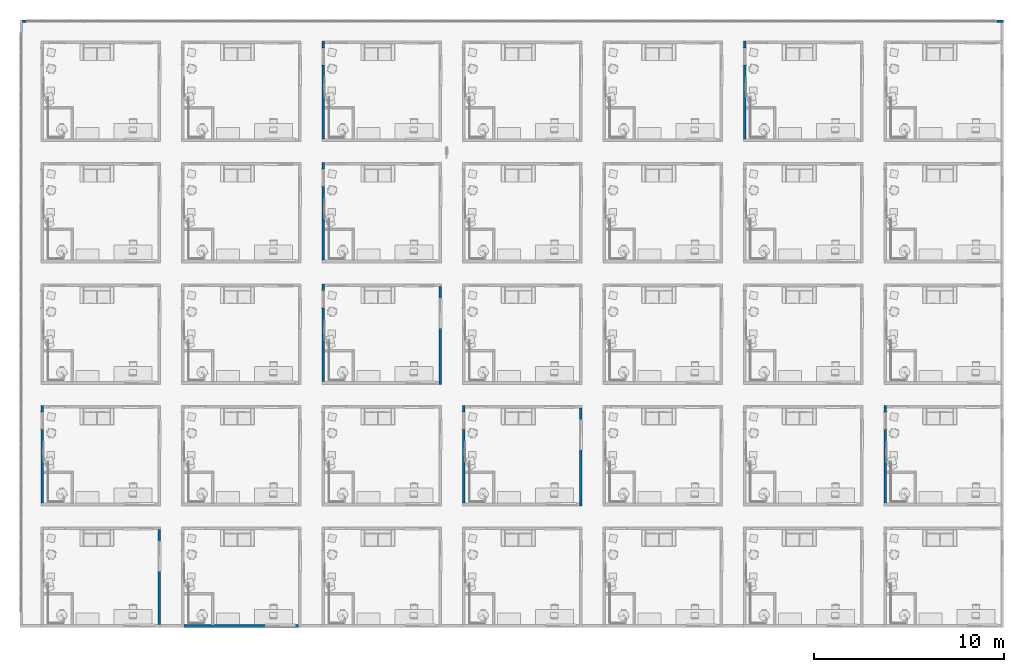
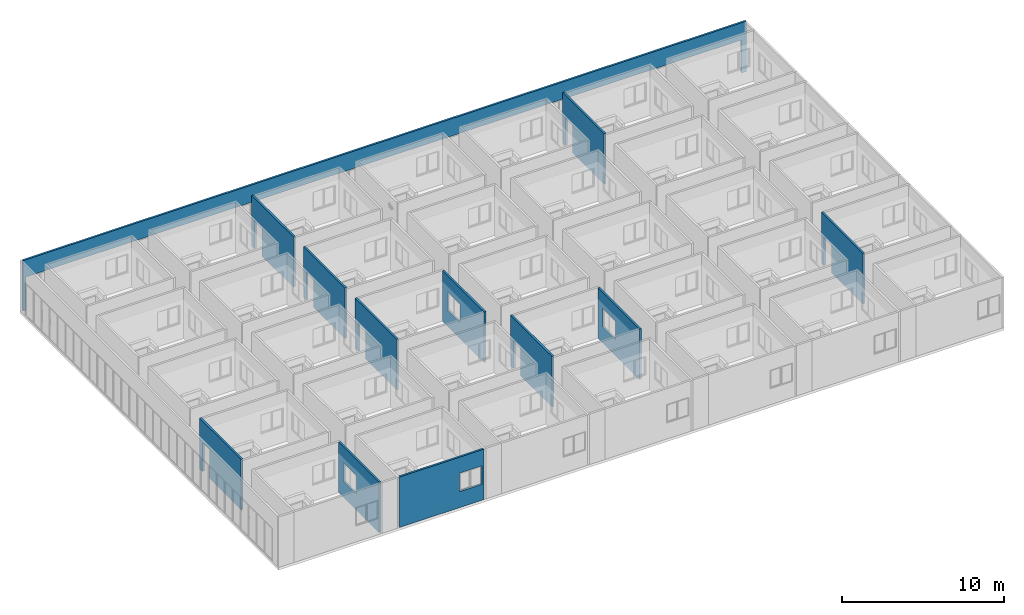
# One storey, part 10 of 69: 12 walls, 12 openings.
"""IFC4 building model written with IfcOpenShell, lengths in centimetres."""

from ifc_helpers import new_model, entity, si_unit, converted_unit, derived_unit, direction, frame, origin, place, context, subcontext, project, spatial, indexed_curve, outline, extrude, polygons, material, type_object, element, save


model = new_model("IFC4")

# Units and contexts
model_context = context("Model", 3, precision=0.001, world=origin(), true_north=direction((6.123233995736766e-17, 1.0)))
body_context = subcontext(model_context, "Body", "Model", "MODEL_VIEW")
ifc_project = project(units=[si_unit("LENGTHUNIT", "METRE", prefix="CENTI"), si_unit("AREAUNIT", "SQUARE_METRE"), si_unit("VOLUMEUNIT", "CUBIC_METRE"), derived_unit("THERMALTRANSMITTANCEUNIT", [(si_unit("MASSUNIT", "GRAM", prefix="KILO"), 1), (si_unit("THERMODYNAMICTEMPERATUREUNIT", "KELVIN"), -1), (si_unit("TIMEUNIT", "SECOND"), -3)]), converted_unit("PLANEANGLEUNIT", "DEGREE", entity("IfcPlaneAngleMeasure", 0.017453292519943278), si_unit("PLANEANGLEUNIT", "RADIAN"), dimensions=[0, 0, 0, 0, 0, 0, 0]), derived_unit("MASSDENSITYUNIT", [(si_unit("MASSUNIT", "GRAM", prefix="KILO"), 1), (si_unit("LENGTHUNIT", "METRE"), -3)]), derived_unit("VAPORPERMEABILITYUNIT", [(si_unit("LENGTHUNIT", "METRE"), -1), (si_unit("TIMEUNIT", "SECOND"), 1)]), derived_unit("USERDEFINED", [(si_unit("MASSUNIT", "GRAM", prefix="KILO"), 1), (si_unit("TIMEUNIT", "SECOND"), -3), (si_unit("LENGTHUNIT", "METRE"), 3), (si_unit("ELECTRICCURRENTUNIT", "AMPERE"), -2)]), derived_unit("SPECIFICHEATCAPACITYUNIT", [(si_unit("THERMODYNAMICTEMPERATUREUNIT", "KELVIN"), -1), (si_unit("LENGTHUNIT", "METRE"), 2), (si_unit("TIMEUNIT", "SECOND"), -2)]), derived_unit("THERMALCONDUCTANCEUNIT", [(si_unit("MASSUNIT", "GRAM", prefix="KILO"), 1), (si_unit("THERMODYNAMICTEMPERATUREUNIT", "KELVIN"), -1), (si_unit("TIMEUNIT", "SECOND"), -3), (si_unit("LENGTHUNIT", "METRE"), 1)]), si_unit("PRESSUREUNIT", "PASCAL"), derived_unit("MODULUSOFELASTICITYUNIT", [(si_unit("MASSUNIT", "GRAM", prefix="KILO"), 1), (si_unit("LENGTHUNIT", "METRE"), -1), (si_unit("TIMEUNIT", "SECOND"), -2)]), derived_unit("THERMALEXPANSIONCOEFFICIENTUNIT", [(si_unit("THERMODYNAMICTEMPERATUREUNIT", "KELVIN"), -1)])], contexts=[model_context])

# Site, building, storey
site_placement = place(None, origin())
site = spatial("IfcSite", under=ifc_project, at=site_placement, Name="Default", CompositionType="ELEMENT")
building_placement = place(site_placement, origin())
building = spatial("IfcBuilding", under=site, at=building_placement, Name="IDS Escape Game Building", CompositionType="ELEMENT")
storey_placement = place(building_placement, origin())
storey = spatial("IfcBuildingStorey", under=building, at=storey_placement, Name="00_Ground Floor", CompositionType="ELEMENT", Elevation=0.0)

# Wall, opening
ifc_material = material(Name="ARC_FME.g2_Fg2 Masonry_00_gen_BERSnl", Category="g - klei")
wall_type = type_object("IfcWallType", Name="Basic Wall:ARC_22.10_WA_LB_SB14_gen_BERSnl", PredefinedType="STANDARD")
wall_1_placement = place(storey_placement, frame((614.0, 13.0, 0.0), z_axis=(0.0, 0.0, 1.0), x_axis=(0.0, 1.0, 0.0)))
wall_1 = element("IfcWall", 1, at=wall_1_placement, inside=storey, type_object=wall_type, material=ifc_material, Name="Basic Wall:ARC_22.10_WA_LB_SB14_gen_BERSnl", ObjectType="Basic Wall:ARC_22.10_WA_LB_SB14_gen_BERSnl", PredefinedType="NOTDEFINED", context=body_context, shape_type="Tessellation", body=[
    polygons([(0.0, -6.9999999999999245, 0.0), (499.9999999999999, -6.9999999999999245, 0.0), (499.9999999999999, -6.9999999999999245, 380.0), (3.383959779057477e-14, -6.9999999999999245, 380.0), (439.99999999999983, -6.999999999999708, 260.00000000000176), (439.9999999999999, -6.9999999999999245, 120.0), (280.0, -7.000000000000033, 120.00000000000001), (280.00000000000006, -6.999999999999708, 260.00000000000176), (439.9999999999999, 7.000000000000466, 120.0), (439.9999999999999, 7.000000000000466, 260.0000000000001), (280.0, 7.000000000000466, 260.0000000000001), (280.0, 7.000000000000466, 120.00000000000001), (3.383959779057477e-14, 7.000000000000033, 0.0), (1.184385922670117e-14, 7.000000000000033, 380.0), (499.9999999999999, 7.000000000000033, 380.0), (499.9999999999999, 7.000000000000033, 0.0)], [[[1, 2, 3, 4], [5, 6, 7, 8]], [[13, 14, 15, 16], [9, 10, 11, 12]], [[2, 1, 13, 16]], [[4, 3, 15, 14]], [[10, 9, 6, 5]], [[7, 12, 11, 8]], [[10, 5, 8, 11]], [[12, 7, 6, 9]], [[1, 4, 14, 13]], [[3, 2, 16, 15]]], closed=True),
])
opening_1_placement = place(wall_1_placement, frame((-13.0, 614.0, 120.0), z_axis=(0.0, 0.0, 1.0), x_axis=(0.0, -1.0, 0.0)))
element("IfcOpeningElement", 2, at=opening_1_placement, cuts=wall_1, Name="Basic Wall:ARC_22.10_WA_LB_SB14_gen_BERSnl", PredefinedType="OPENING", context=body_context, shape_type="Tessellation", body=[
    polygons([(607.0, 453.0000000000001, 0.0), (607.0, 453.0000000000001, -1.0), (602.0, 453.0000000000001, -1.0), (602.0, 453.0000000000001, 0.0), (606.9999999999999, 293.0000000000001, 0.0), (601.9999999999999, 293.0000000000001, 0.0), (601.9999999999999, 293.0000000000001, -1.0), (606.9999999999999, 293.0000000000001, -1.0), (606.9999999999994, 448.0000000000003, 0.0), (606.9999999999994, 298.00000000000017, 0.0), (601.9999999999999, 298.00000000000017, 0.0), (601.9999999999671, 298.0000000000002, 134.9999999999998), (601.9999999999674, 448.0000000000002, 134.9999999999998), (601.9999999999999, 448.0000000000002, 0.0), (626.0368251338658, 453.00000000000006, 0.0), (606.9999999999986, 453.00000000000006, 0.0), (606.9999999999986, 453.0000000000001, 140.00000000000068), (626.0368251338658, 453.0000000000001, 140.00000000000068), (626.0368251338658, 293.00000000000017, 140.0000000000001), (606.9999999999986, 293.00000000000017, 140.0000000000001), (606.9999999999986, 293.00000000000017, 0.0), (626.0368251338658, 293.00000000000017, 0.0), (606.9999999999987, 448.0000000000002, 134.9999999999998), (606.9999999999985, 298.0000000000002, 134.9999999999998)], [[[1, 2, 3, 4]], [[5, 6, 7, 8]], [[1, 9, 10, 5, 8, 2]], [[2, 8, 7, 3]], [[3, 7, 6, 11, 12, 13, 14, 4]], [[4, 14, 9, 1]], [[15, 16, 17, 18]], [[19, 20, 21, 22]], [[18, 17, 20, 19]], [[18, 19, 22, 15]], [[17, 16, 9, 23, 24, 10, 21, 20]], [[22, 21, 10, 9, 16, 15]], [[11, 10, 24, 12]], [[13, 23, 9, 14]], [[12, 24, 23, 13]], [[5, 10, 11, 6]]], closed=True),
])

wall_2_placement = place(storey_placement, frame((745.0, 6.0, 0.0)))
wall_2 = element("IfcWall", 3, at=wall_2_placement, inside=storey, type_object=wall_type, material=ifc_material, Name="Basic Wall:ARC_22.10_WA_LB_SB14_gen_BERSnl", ObjectType="Basic Wall:ARC_22.10_WA_LB_SB14_gen_BERSnl", PredefinedType="NOTDEFINED", context=body_context, shape_type="Tessellation", body=[
    polygons([(0.0, -7.000000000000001, 0.0), (599.9999999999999, -7.000000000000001, 0.0), (599.9999999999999, -7.000000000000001, 380.0), (0.0, -7.000000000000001, 380.0), (424.99999999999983, -6.999999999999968, 120.0), (424.99999999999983, -6.999999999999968, 260.0000000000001), (584.9999999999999, -6.999999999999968, 260.0000000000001), (584.9999999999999, -6.999999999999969, 120.00000000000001), (425.00000000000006, 7.000000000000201, 260.00000000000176), (424.99999999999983, 7.000000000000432, 120.0), (584.9999999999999, 7.000000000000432, 120.00000000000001), (584.9999999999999, 7.000000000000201, 260.00000000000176), (0.0, 6.999999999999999, 0.0), (0.0, 6.999999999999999, 380.0), (599.9999999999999, 6.999999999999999, 380.0), (599.9999999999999, 6.999999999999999, 0.0), (155.00000000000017, 6.999999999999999, 0.0), (145.00000000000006, 6.999999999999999, 0.0)], [[[1, 2, 3, 4], [5, 6, 7, 8]], [[13, 14, 15, 16, 17, 18], [9, 10, 11, 12]], [[2, 1, 13, 18, 17, 16]], [[4, 3, 15, 14]], [[8, 11, 10, 5]], [[6, 5, 10, 9]], [[11, 8, 7, 12]], [[6, 9, 12, 7]], [[1, 4, 14, 13]], [[3, 2, 16, 15]]], closed=True),
])
opening_2_placement = place(wall_2_placement, frame((-745.0, -6.0, 120.0)))
element("IfcOpeningElement", 4, at=opening_2_placement, cuts=wall_2, Name="Basic Wall:ARC_22.10_WA_LB_SB14_gen_BERSnl", PredefinedType="OPENING", context=body_context, shape_type="Tessellation", body=[
    polygons([(1170.0, -1.000000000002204, 0.0), (1170.0, -1.000000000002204, -1.0), (1170.0, -6.000000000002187, -1.0), (1170.0, -6.000000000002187, 0.0), (1330.0, -1.0000000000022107, 0.0), (1330.0, -6.000000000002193, 0.0), (1330.0, -6.000000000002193, -1.0), (1330.0, -1.0000000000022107, -1.0), (1175.0, -1.0000000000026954, 0.0), (1324.9999999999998, -1.0000000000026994, 0.0), (1324.9999999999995, -6.000000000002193, 0.0), (1324.9999999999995, -6.000000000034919, 134.9999999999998), (1175.0, -6.000000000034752, 134.9999999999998), (1175.0, -6.000000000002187, 0.0), (1170.0, 18.03682513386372, 0.0), (1170.0, -1.0000000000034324, 0.0), (1170.0, -1.0000000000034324, 140.00000000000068), (1170.0, 18.03682513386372, 140.00000000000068), (1330.0, 18.03682513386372, 140.0000000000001), (1330.0, -1.0000000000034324, 140.0000000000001), (1330.0, -1.000000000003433, 0.0), (1330.0, 18.03682513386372, 0.0), (1175.0, -1.000000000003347, 134.9999999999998), (1324.9999999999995, -1.0000000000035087, 134.9999999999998)], [[[1, 2, 3, 4]], [[5, 6, 7, 8]], [[1, 9, 10, 5, 8, 2]], [[2, 8, 7, 3]], [[3, 7, 6, 11, 12, 13, 14, 4]], [[4, 14, 9, 1]], [[15, 16, 17, 18]], [[19, 20, 21, 22]], [[18, 17, 20, 19]], [[18, 19, 22, 15]], [[17, 16, 9, 23, 24, 10, 21, 20]], [[22, 21, 10, 9, 16, 15]], [[11, 10, 24, 12]], [[13, 23, 9, 14]], [[12, 24, 23, 13]], [[5, 10, 11, 6]]], closed=True),
])

wall_3_placement = place(storey_placement, frame((0.0, 1165.0, 0.0), z_axis=(0.0, 0.0, 1.0), x_axis=(0.0, -1.0, 0.0)))
wall_3 = element("IfcWall", 5, at=wall_3_placement, inside=storey, type_object=wall_type, material=ifc_material, Name="Basic Wall:ARC_22.10_WA_LB_SB14_gen_BERSnl", ObjectType="Basic Wall:ARC_22.10_WA_LB_SB14_gen_BERSnl", PredefinedType="NOTDEFINED", context=body_context, shape_type="Tessellation", body=[
    polygons([(514.0000000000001, -7.0, 380.0), (0.0, -7.0, 380.0), (0.0, -7.0, 0.0), (35.99999999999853, -7.0, 0.0), (35.99999999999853, -7.000000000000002, 215.00000000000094), (125.99999999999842, -7.000000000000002, 215.00000000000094), (125.99999999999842, -7.0, 0.0), (514.0000000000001, -7.0, 0.0), (0.0, 7.0, 380.0), (14.000000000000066, 7.0, 380.0), (514.0000000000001, 7.0, 380.0), (514.0000000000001, 7.0, 0.0), (355.99999999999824, 7.0, 0.0), (345.99999999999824, 7.0, 0.0), (125.99999999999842, 7.0, 0.0), (125.99999999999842, 6.9999999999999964, 215.00000000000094), (35.99999999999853, 7.000000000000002, 215.00000000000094), (35.99999999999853, 7.0, 0.0), (14.000000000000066, 7.0, 0.0), (0.0, 7.0, 0.0)], [[[1, 2, 3, 4, 5, 6, 7, 8]], [[9, 10, 11, 12, 13, 14, 15, 16, 17, 18, 19, 20]], [[3, 20, 19, 18, 4]], [[2, 1, 11, 10, 9]], [[17, 5, 4, 18]], [[6, 16, 15, 7]], [[5, 17, 16, 6]], [[3, 2, 9, 20]], [[1, 8, 12, 11]], [[12, 8, 7, 15, 14, 13]]], closed=True),
])
opening_3_placement = place(wall_3_placement, frame((1165.0, 0.0, 0.0), z_axis=(0.0, 0.0, 1.0), x_axis=(0.0, 1.0, 0.0)))
element("IfcOpeningElement", 6, at=opening_3_placement, cuts=wall_3, Name="Basic Wall:ARC_22.10_WA_LB_SB14_gen_BERSnl", PredefinedType="OPENING", context=body_context, shape_type="SweptSolid", body=[
    extrude(outline(indexed_curve([(-137.49999999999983, -44.99999999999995), (137.49999999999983, -44.99999999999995), (137.49999999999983, 44.99999999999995), (-137.49999999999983, 44.99999999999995), (-137.49999999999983, -44.99999999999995)], self_intersect=False)), frame((-90.0, 1084.0, 77.50000000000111), z_axis=(1.0, 0.0, 0.0), x_axis=(0.0, 0.0, 1.0)), (0.0, 0.0, 1.0), 166.0),
])

wall_4_placement = place(storey_placement, frame((2214.0, 1165.0, 0.0), z_axis=(0.0, 0.0, 1.0), x_axis=(0.0, -1.0, 0.0)))
wall_4 = element("IfcWall", 7, at=wall_4_placement, inside=storey, type_object=wall_type, material=ifc_material, Name="Basic Wall:ARC_22.10_WA_LB_SB14_gen_BERSnl", ObjectType="Basic Wall:ARC_22.10_WA_LB_SB14_gen_BERSnl", PredefinedType="NOTDEFINED", context=body_context, shape_type="Tessellation", body=[
    polygons([(514.0000000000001, -6.999999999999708, 380.0), (0.0, -6.999999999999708, 380.0), (0.0, -6.999999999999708, 0.0), (35.99999999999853, -6.999999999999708, 0.0), (35.99999999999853, -6.999999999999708, 215.00000000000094), (125.99999999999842, -6.999999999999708, 215.00000000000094), (125.99999999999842, -6.999999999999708, 0.0), (514.0000000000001, -6.999999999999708, 0.0), (0.0, 7.000000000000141, 380.0), (14.000000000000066, 7.000000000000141, 380.0), (514.0000000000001, 7.000000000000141, 380.0), (514.0000000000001, 7.000000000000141, 0.0), (355.99999999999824, 7.000000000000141, 0.0), (345.99999999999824, 7.000000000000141, 0.0), (125.99999999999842, 7.000000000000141, 0.0), (125.99999999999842, 7.000000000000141, 215.00000000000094), (35.99999999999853, 7.000000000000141, 215.00000000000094), (35.99999999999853, 7.000000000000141, 0.0), (14.000000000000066, 7.000000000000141, 0.0), (0.0, 7.000000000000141, 0.0)], [[[1, 2, 3, 4, 5, 6, 7, 8]], [[9, 10, 11, 12, 13, 14, 15, 16, 17, 18, 19, 20]], [[3, 20, 19, 18, 4]], [[2, 1, 11, 10, 9]], [[17, 5, 4, 18]], [[6, 16, 15, 7]], [[5, 17, 16, 6]], [[3, 2, 9, 20]], [[1, 8, 12, 11]], [[12, 8, 7, 15, 14, 13]]], closed=True),
])
opening_4_placement = place(wall_4_placement, frame((1165.0, -2214.0, 0.0), z_axis=(0.0, 0.0, 1.0), x_axis=(0.0, 1.0, 0.0)))
element("IfcOpeningElement", 8, at=opening_4_placement, cuts=wall_4, Name="Basic Wall:ARC_22.10_WA_LB_SB14_gen_BERSnl", PredefinedType="OPENING", context=body_context, shape_type="SweptSolid", body=[
    extrude(outline(indexed_curve([(-137.49999999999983, -44.99999999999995), (137.49999999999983, -44.99999999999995), (137.49999999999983, 44.99999999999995), (-137.49999999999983, 44.99999999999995), (-137.49999999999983, -44.99999999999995)], self_intersect=False)), frame((2124.0, 1084.0, 77.50000000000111), z_axis=(1.0, 0.0, 0.0), x_axis=(0.0, 0.0, 1.0)), (0.0, 0.0, 1.0), 166.00000000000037),
])

wall_5_placement = place(storey_placement, frame((2828.0, 637.0, 0.0), z_axis=(0.0, 0.0, 1.0), x_axis=(0.0, 1.0, 0.0)))
wall_5 = element("IfcWall", 9, at=wall_5_placement, inside=storey, type_object=wall_type, material=ifc_material, Name="Basic Wall:ARC_22.10_WA_LB_SB14_gen_BERSnl", ObjectType="Basic Wall:ARC_22.10_WA_LB_SB14_gen_BERSnl", PredefinedType="NOTDEFINED", context=body_context, shape_type="Tessellation", body=[
    polygons([(0.0, -6.999999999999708, 0.0), (514.0, -6.999999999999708, 0.0), (514.0, -6.999999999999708, 380.0), (0.0, -6.999999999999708, 380.0), (454.00000000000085, -6.999999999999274, 260.00000000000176), (454.0000000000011, -6.999999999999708, 120.0), (294.00000000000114, -6.999999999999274, 120.00000000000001), (294.00000000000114, -6.999999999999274, 260.00000000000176), (454.0000000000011, 7.000000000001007, 120.0), (454.0000000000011, 7.000000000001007, 260.0000000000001), (294.00000000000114, 7.000000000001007, 260.0000000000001), (294.00000000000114, 7.000000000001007, 120.00000000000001), (0.0, 6.999999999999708, 0.0), (0.0, 6.999999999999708, 380.0), (13.999999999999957, 7.000000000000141, 380.0), (514.0, 6.999999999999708, 380.0), (514.0, 6.999999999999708, 0.0), (13.999999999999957, 7.000000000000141, 0.0)], [[[1, 2, 3, 4], [5, 6, 7, 8]], [[13, 14, 15, 16, 17, 18], [9, 10, 11, 12]], [[2, 1, 13, 18, 17]], [[4, 3, 16, 15, 14]], [[10, 9, 6, 5]], [[7, 12, 11, 8]], [[10, 5, 8, 11]], [[12, 7, 6, 9]], [[1, 4, 14, 13]], [[3, 2, 17, 16]]], closed=True),
])
opening_5_placement = place(wall_5_placement, frame((-637.0, 2828.0, 120.0), z_axis=(0.0, 0.0, 1.0), x_axis=(0.0, -1.0, 0.0)))
element("IfcOpeningElement", 10, at=opening_5_placement, cuts=wall_5, Name="Basic Wall:ARC_22.10_WA_LB_SB14_gen_BERSnl", PredefinedType="OPENING", context=body_context, shape_type="Tessellation", body=[
    polygons([(2821.0, 1091.0, 0.0), (2821.0, 1091.0, -1.0), (2816.0000000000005, 1091.0, -1.0), (2816.0000000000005, 1091.0, 0.0), (2821.0, 931.0, 0.0), (2816.0000000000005, 931.0, 0.0), (2816.0000000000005, 931.0, -1.0), (2821.0, 931.0, -1.0), (2820.9999999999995, 1086.0, 0.0), (2821.0, 936.0, 0.0), (2816.0000000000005, 936.0, 0.0), (2815.9999999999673, 936.0, 134.9999999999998), (2815.9999999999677, 1086.0, 134.9999999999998), (2816.0000000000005, 1086.0, 0.0), (2840.036825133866, 1090.9999999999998, 0.0), (2820.999999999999, 1091.0, 0.0), (2820.999999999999, 1091.0, 140.00000000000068), (2840.036825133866, 1091.0, 140.00000000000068), (2840.036825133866, 931.0, 140.0000000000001), (2820.999999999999, 931.0, 140.0000000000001), (2820.999999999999, 931.0, 0.0), (2840.036825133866, 931.0, 0.0), (2820.999999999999, 1086.0, 134.9999999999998), (2820.999999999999, 936.0, 134.9999999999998)], [[[1, 2, 3, 4]], [[5, 6, 7, 8]], [[1, 9, 10, 5, 8, 2]], [[2, 8, 7, 3]], [[3, 7, 6, 11, 12, 13, 14, 4]], [[4, 14, 9, 1]], [[15, 16, 17, 18]], [[19, 20, 21, 22]], [[18, 17, 20, 19]], [[18, 19, 22, 15]], [[17, 16, 9, 23, 24, 10, 21, 20]], [[22, 21, 10, 9, 16, 15]], [[11, 10, 24, 12]], [[13, 23, 9, 14]], [[12, 24, 23, 13]], [[5, 10, 11, 6]]], closed=True),
])

wall_6_placement = place(storey_placement, frame((4428.0, 1165.0, 0.0), z_axis=(0.0, 0.0, 1.0), x_axis=(0.0, -1.0, 0.0)))
wall_6 = element("IfcWall", 11, at=wall_6_placement, inside=storey, type_object=wall_type, material=ifc_material, Name="Basic Wall:ARC_22.10_WA_LB_SB14_gen_BERSnl", ObjectType="Basic Wall:ARC_22.10_WA_LB_SB14_gen_BERSnl", PredefinedType="NOTDEFINED", context=body_context, shape_type="Tessellation", body=[
    polygons([(514.0000000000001, -7.000000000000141, 380.0), (0.0, -7.000000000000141, 380.0), (0.0, -7.000000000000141, 0.0), (35.99999999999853, -7.000000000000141, 0.0), (35.99999999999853, -7.000000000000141, 215.00000000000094), (125.99999999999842, -7.000000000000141, 215.00000000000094), (125.99999999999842, -7.000000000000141, 0.0), (514.0000000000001, -7.000000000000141, 0.0), (0.0, 7.000000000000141, 380.0), (14.000000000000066, 7.000000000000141, 380.0), (514.0000000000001, 7.000000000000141, 380.0), (514.0000000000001, 7.000000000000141, 0.0), (355.99999999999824, 7.000000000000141, 0.0), (345.99999999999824, 7.000000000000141, 0.0), (125.99999999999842, 7.000000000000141, 0.0), (125.99999999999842, 7.000000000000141, 215.00000000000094), (35.99999999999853, 7.000000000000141, 215.00000000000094), (35.99999999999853, 7.000000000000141, 0.0), (14.000000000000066, 7.000000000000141, 0.0), (0.0, 7.000000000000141, 0.0)], [[[1, 2, 3, 4, 5, 6, 7, 8]], [[9, 10, 11, 12, 13, 14, 15, 16, 17, 18, 19, 20]], [[3, 20, 19, 18, 4]], [[2, 1, 11, 10, 9]], [[17, 5, 4, 18]], [[6, 16, 15, 7]], [[5, 17, 16, 6]], [[3, 2, 9, 20]], [[1, 8, 12, 11]], [[12, 8, 7, 15, 14, 13]]], closed=True),
])
opening_6_placement = place(wall_6_placement, frame((1165.0, -4428.0, 0.0), z_axis=(0.0, 0.0, 1.0), x_axis=(0.0, 1.0, 0.0)))
element("IfcOpeningElement", 12, at=opening_6_placement, cuts=wall_6, Name="Basic Wall:ARC_22.10_WA_LB_SB14_gen_BERSnl", PredefinedType="OPENING", context=body_context, shape_type="SweptSolid", body=[
    extrude(outline(indexed_curve([(-137.49999999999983, -44.99999999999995), (137.49999999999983, -44.99999999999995), (137.49999999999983, 44.99999999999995), (-137.49999999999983, 44.99999999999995), (-137.49999999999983, -44.99999999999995)], self_intersect=False)), frame((4338.0, 1084.0, 77.50000000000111), z_axis=(1.0, 0.0, 0.0), x_axis=(0.0, 0.0, 1.0)), (0.0, 0.0, 1.0), 166.00000000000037),
])

wall_7_placement = place(storey_placement, frame((1476.0, 1803.0, 0.0), z_axis=(0.0, 0.0, 1.0), x_axis=(0.0, -1.0, 0.0)))
wall_7 = element("IfcWall", 13, at=wall_7_placement, inside=storey, type_object=wall_type, material=ifc_material, Name="Basic Wall:ARC_22.10_WA_LB_SB14_gen_BERSnl", ObjectType="Basic Wall:ARC_22.10_WA_LB_SB14_gen_BERSnl", PredefinedType="NOTDEFINED", context=body_context, shape_type="Tessellation", body=[
    polygons([(514.0000000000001, -7.000000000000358, 380.0), (0.0, -7.000000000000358, 380.0), (0.0, -7.000000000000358, 0.0), (35.99999999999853, -7.000000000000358, 0.0), (35.99999999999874, -7.000000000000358, 215.00000000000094), (125.99999999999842, -7.000000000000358, 215.00000000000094), (125.99999999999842, -7.000000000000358, 0.0), (514.0000000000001, -7.000000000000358, 0.0), (0.0, 6.9999999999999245, 380.0), (14.000000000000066, 6.9999999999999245, 380.0), (514.0000000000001, 6.9999999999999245, 380.0), (514.0000000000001, 6.9999999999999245, 0.0), (355.9999999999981, 6.9999999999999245, 0.0), (345.999999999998, 6.9999999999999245, 0.0), (125.99999999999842, 6.9999999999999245, 0.0), (125.99999999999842, 6.9999999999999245, 215.00000000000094), (35.99999999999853, 6.9999999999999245, 215.00000000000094), (35.99999999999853, 6.9999999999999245, 0.0), (14.000000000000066, 6.9999999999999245, 0.0), (0.0, 6.9999999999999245, 0.0)], [[[1, 2, 3, 4, 5, 6, 7, 8]], [[9, 10, 11, 12, 13, 14, 15, 16, 17, 18, 19, 20]], [[3, 20, 19, 18, 4]], [[2, 1, 11, 10, 9]], [[17, 5, 4, 18]], [[6, 16, 15, 7]], [[5, 17, 16, 6]], [[3, 2, 9, 20]], [[1, 8, 12, 11]], [[12, 8, 7, 15, 14, 13]]], closed=True),
])
opening_7_placement = place(wall_7_placement, frame((1803.0, -1476.0, 0.0), z_axis=(0.0, 0.0, 1.0), x_axis=(0.0, 1.0, 0.0)))
element("IfcOpeningElement", 14, at=opening_7_placement, cuts=wall_7, Name="Basic Wall:ARC_22.10_WA_LB_SB14_gen_BERSnl", PredefinedType="OPENING", context=body_context, shape_type="SweptSolid", body=[
    extrude(outline(indexed_curve([(-137.49999999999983, -44.99999999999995), (137.49999999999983, -44.99999999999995), (137.49999999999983, 44.99999999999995), (-137.49999999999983, 44.99999999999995), (-137.49999999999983, -44.99999999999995)], self_intersect=False)), frame((1386.0, 1722.0, 77.50000000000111), z_axis=(1.0, 0.0, 0.0), x_axis=(0.0, 0.0, 1.0)), (0.0, 0.0, 1.0), 165.99999999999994),
])

wall_8_placement = place(storey_placement, frame((2090.0, 1275.0, 0.0), z_axis=(0.0, 0.0, 1.0), x_axis=(0.0, 1.0, 0.0)))
wall_8 = element("IfcWall", 15, at=wall_8_placement, inside=storey, type_object=wall_type, material=ifc_material, Name="Basic Wall:ARC_22.10_WA_LB_SB14_gen_BERSnl", ObjectType="Basic Wall:ARC_22.10_WA_LB_SB14_gen_BERSnl", PredefinedType="NOTDEFINED", context=body_context, shape_type="Tessellation", body=[
    polygons([(0.0, -6.999999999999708, 0.0), (514.0000000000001, -6.999999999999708, 0.0), (514.0000000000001, -6.999999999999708, 380.0), (0.0, -6.999999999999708, 380.0), (454.0000000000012, -6.999999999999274, 260.00000000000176), (454.00000000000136, -6.999999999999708, 120.0), (294.00000000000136, -6.999999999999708, 120.00000000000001), (294.00000000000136, -6.999999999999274, 260.00000000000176), (454.00000000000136, 7.000000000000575, 120.0), (454.00000000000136, 7.000000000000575, 260.0000000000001), (294.00000000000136, 7.000000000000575, 260.0000000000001), (294.00000000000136, 7.000000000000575, 120.00000000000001), (0.0, 7.000000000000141, 0.0), (0.0, 7.000000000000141, 380.0), (14.000000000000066, 7.000000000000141, 380.0), (514.0000000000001, 7.000000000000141, 380.0), (514.0000000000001, 7.000000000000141, 0.0), (14.000000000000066, 7.000000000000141, 0.0)], [[[1, 2, 3, 4], [5, 6, 7, 8]], [[13, 14, 15, 16, 17, 18], [9, 10, 11, 12]], [[2, 1, 13, 18, 17]], [[4, 3, 16, 15, 14]], [[10, 9, 6, 5]], [[7, 12, 11, 8]], [[10, 5, 8, 11]], [[12, 7, 6, 9]], [[1, 4, 14, 13]], [[3, 2, 17, 16]]], closed=True),
])
opening_8_placement = place(wall_8_placement, frame((-1275.0, 2090.0, 120.0), z_axis=(0.0, 0.0, 1.0), x_axis=(0.0, -1.0, 0.0)))
element("IfcOpeningElement", 16, at=opening_8_placement, cuts=wall_8, Name="Basic Wall:ARC_22.10_WA_LB_SB14_gen_BERSnl", PredefinedType="OPENING", context=body_context, shape_type="Tessellation", body=[
    polygons([(2082.9999999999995, 1729.0000000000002, 0.0), (2082.9999999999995, 1729.0000000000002, -1.0), (2077.999999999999, 1729.0000000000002, -1.0), (2077.999999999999, 1729.0000000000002, 0.0), (2082.9999999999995, 1569.0000000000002, 0.0), (2077.999999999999, 1569.0000000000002, 0.0), (2077.999999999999, 1569.0000000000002, -1.0), (2082.9999999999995, 1569.0000000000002, -1.0), (2082.999999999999, 1724.0000000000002, 0.0), (2082.999999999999, 1574.0000000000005, 0.0), (2077.9999999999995, 1574.0000000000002, 0.0), (2077.9999999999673, 1574.0000000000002, 134.9999999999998), (2077.9999999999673, 1724.0000000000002, 134.9999999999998), (2077.9999999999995, 1724.0000000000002, 0.0), (2102.0368251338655, 1729.0000000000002, 0.0), (2082.999999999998, 1729.0000000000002, 0.0), (2082.9999999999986, 1729.0000000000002, 140.00000000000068), (2102.036825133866, 1729.0000000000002, 140.00000000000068), (2102.0368251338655, 1569.0000000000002, 140.0000000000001), (2082.999999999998, 1569.0000000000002, 140.0000000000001), (2082.9999999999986, 1569.0000000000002, 0.0), (2102.0368251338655, 1569.0000000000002, 0.0), (2082.9999999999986, 1724.0000000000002, 134.9999999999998), (2082.999999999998, 1574.0000000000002, 134.9999999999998)], [[[1, 2, 3, 4]], [[5, 6, 7, 8]], [[1, 9, 10, 5, 8, 2]], [[2, 8, 7, 3]], [[3, 7, 6, 11, 12, 13, 14, 4]], [[4, 14, 9, 1]], [[15, 16, 17, 18]], [[19, 20, 21, 22]], [[18, 17, 20, 19]], [[18, 19, 22, 15]], [[17, 16, 9, 23, 24, 10, 21, 20]], [[22, 21, 10, 9, 16, 15]], [[11, 10, 24, 12]], [[13, 23, 9, 14]], [[12, 24, 23, 13]], [[5, 10, 11, 6]]], closed=True),
])

wall_9_placement = place(storey_placement, frame((1476.0, 2441.0, 0.0), z_axis=(0.0, 0.0, 1.0), x_axis=(0.0, -1.0, 0.0)))
wall_9 = element("IfcWall", 17, at=wall_9_placement, inside=storey, type_object=wall_type, material=ifc_material, Name="Basic Wall:ARC_22.10_WA_LB_SB14_gen_BERSnl", ObjectType="Basic Wall:ARC_22.10_WA_LB_SB14_gen_BERSnl", PredefinedType="NOTDEFINED", context=body_context, shape_type="Tessellation", body=[
    polygons([(513.9999999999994, -7.000000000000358, 380.0), (0.0, -7.000000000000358, 380.0), (0.0, -7.000000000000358, 0.0), (35.99999999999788, -7.000000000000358, 0.0), (35.99999999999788, -7.000000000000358, 215.00000000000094), (125.99999999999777, -7.000000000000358, 215.00000000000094), (125.99999999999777, -7.000000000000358, 0.0), (513.9999999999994, -7.000000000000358, 0.0), (0.0, 6.9999999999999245, 380.0), (13.999999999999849, 6.9999999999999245, 380.0), (513.9999999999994, 6.9999999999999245, 380.0), (513.9999999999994, 6.9999999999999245, 0.0), (355.9999999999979, 6.9999999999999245, 0.0), (345.999999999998, 6.9999999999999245, 0.0), (125.99999999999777, 6.9999999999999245, 0.0), (125.99999999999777, 6.9999999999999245, 215.00000000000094), (35.99999999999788, 6.9999999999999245, 215.00000000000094), (35.99999999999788, 6.9999999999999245, 0.0), (13.999999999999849, 6.9999999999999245, 0.0), (0.0, 6.9999999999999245, 0.0)], [[[1, 2, 3, 4, 5, 6, 7, 8]], [[9, 10, 11, 12, 13, 14, 15, 16, 17, 18, 19, 20]], [[3, 20, 19, 18, 4]], [[2, 1, 11, 10, 9]], [[17, 5, 4, 18]], [[6, 16, 15, 7]], [[5, 17, 16, 6]], [[3, 2, 9, 20]], [[1, 8, 12, 11]], [[12, 8, 7, 15, 14, 13]]], closed=True),
])
opening_9_placement = place(wall_9_placement, frame((2441.0, -1476.0, 0.0), z_axis=(0.0, 0.0, 1.0), x_axis=(0.0, 1.0, 0.0)))
element("IfcOpeningElement", 18, at=opening_9_placement, cuts=wall_9, Name="Basic Wall:ARC_22.10_WA_LB_SB14_gen_BERSnl", PredefinedType="OPENING", context=body_context, shape_type="SweptSolid", body=[
    extrude(outline(indexed_curve([(-137.49999999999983, -45.00000000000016), (137.49999999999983, -45.00000000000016), (137.49999999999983, 44.99999999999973), (-137.49999999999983, 44.99999999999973), (-137.49999999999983, -45.00000000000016)], self_intersect=False)), frame((1386.0, 2360.0, 77.50000000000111), z_axis=(1.0, 0.0, 0.0), x_axis=(0.0, 0.0, 1.0)), (0.0, 0.0, 1.0), 165.99999999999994),
])

wall_10_placement = place(storey_placement, frame((1476.0, 3079.0, 0.0), z_axis=(0.0, 0.0, 1.0), x_axis=(0.0, -1.0, 0.0)))
wall_10 = element("IfcWall", 19, at=wall_10_placement, inside=storey, type_object=wall_type, material=ifc_material, Name="Basic Wall:ARC_22.10_WA_LB_SB14_gen_BERSnl", ObjectType="Basic Wall:ARC_22.10_WA_LB_SB14_gen_BERSnl", PredefinedType="NOTDEFINED", context=body_context, shape_type="Tessellation", body=[
    polygons([(513.9999999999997, -7.000000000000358, 380.0), (0.0, -7.000000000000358, 380.0), (0.0, -7.000000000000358, 0.0), (35.99999999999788, -7.000000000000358, 0.0), (35.99999999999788, -7.000000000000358, 215.00000000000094), (125.99999999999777, -7.000000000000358, 215.00000000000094), (125.99999999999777, -7.000000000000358, 0.0), (513.9999999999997, -7.000000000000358, 0.0), (0.0, 6.9999999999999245, 380.0), (13.999999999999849, 6.9999999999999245, 380.0), (513.9999999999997, 6.9999999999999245, 380.0), (513.9999999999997, 6.9999999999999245, 0.0), (355.9999999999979, 6.9999999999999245, 0.0), (345.999999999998, 6.9999999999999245, 0.0), (125.99999999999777, 6.9999999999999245, 0.0), (125.99999999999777, 6.9999999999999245, 215.00000000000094), (35.99999999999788, 6.9999999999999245, 215.00000000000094), (35.99999999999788, 6.9999999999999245, 0.0), (13.999999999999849, 6.9999999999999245, 0.0), (0.0, 6.9999999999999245, 0.0)], [[[1, 2, 3, 4, 5, 6, 7, 8]], [[9, 10, 11, 12, 13, 14, 15, 16, 17, 18, 19, 20]], [[3, 20, 19, 18, 4]], [[2, 1, 11, 10, 9]], [[17, 5, 4, 18]], [[6, 16, 15, 7]], [[5, 17, 16, 6]], [[3, 2, 9, 20]], [[1, 8, 12, 11]], [[12, 8, 7, 15, 14, 13]]], closed=True),
])
opening_10_placement = place(wall_10_placement, frame((3079.0, -1476.0, 0.0), z_axis=(0.0, 0.0, 1.0), x_axis=(0.0, 1.0, 0.0)))
element("IfcOpeningElement", 20, at=opening_10_placement, cuts=wall_10, Name="Basic Wall:ARC_22.10_WA_LB_SB14_gen_BERSnl", PredefinedType="OPENING", context=body_context, shape_type="SweptSolid", body=[
    extrude(outline(indexed_curve([(-137.49999999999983, -44.99999999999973), (137.49999999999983, -44.99999999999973), (137.49999999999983, 45.00000000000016), (-137.49999999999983, 45.00000000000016), (-137.49999999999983, -44.99999999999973)], self_intersect=False)), frame((1386.0, 2998.0, 77.50000000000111), z_axis=(1.0, 0.0, 0.0), x_axis=(0.0, 0.0, 1.0)), (0.0, 0.0, 1.0), 165.99999999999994),
])

wall_11_placement = place(storey_placement, frame((3690.0, 3079.0, 0.0), z_axis=(0.0, 0.0, 1.0), x_axis=(0.0, -1.0, 0.0)))
wall_11 = element("IfcWall", 21, at=wall_11_placement, inside=storey, type_object=wall_type, material=ifc_material, Name="Basic Wall:ARC_22.10_WA_LB_SB14_gen_BERSnl", ObjectType="Basic Wall:ARC_22.10_WA_LB_SB14_gen_BERSnl", PredefinedType="NOTDEFINED", context=body_context, shape_type="Tessellation", body=[
    polygons([(513.9999999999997, -6.999999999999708, 380.0), (0.0, -6.999999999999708, 380.0), (0.0, -6.999999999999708, 0.0), (35.99999999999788, -6.999999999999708, 0.0), (35.99999999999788, -6.999999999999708, 215.00000000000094), (125.99999999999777, -6.999999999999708, 215.00000000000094), (125.99999999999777, -6.999999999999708, 0.0), (513.9999999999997, -6.999999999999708, 0.0), (0.0, 7.000000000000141, 380.0), (13.999999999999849, 7.000000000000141, 380.0), (513.9999999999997, 7.000000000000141, 380.0), (513.9999999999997, 7.000000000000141, 0.0), (355.9999999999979, 7.000000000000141, 0.0), (345.999999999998, 7.000000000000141, 0.0), (125.99999999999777, 7.000000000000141, 0.0), (125.99999999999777, 7.000000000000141, 215.00000000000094), (35.99999999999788, 7.000000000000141, 215.00000000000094), (35.99999999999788, 7.000000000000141, 0.0), (13.999999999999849, 7.000000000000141, 0.0), (0.0, 7.000000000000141, 0.0)], [[[1, 2, 3, 4, 5, 6, 7, 8]], [[9, 10, 11, 12, 13, 14, 15, 16, 17, 18, 19, 20]], [[3, 20, 19, 18, 4]], [[2, 1, 11, 10, 9]], [[17, 5, 4, 18]], [[6, 16, 15, 7]], [[5, 17, 16, 6]], [[3, 2, 9, 20]], [[1, 8, 12, 11]], [[12, 8, 7, 15, 14, 13]]], closed=True),
])
opening_11_placement = place(wall_11_placement, frame((3079.0, -3690.0, 0.0), z_axis=(0.0, 0.0, 1.0), x_axis=(0.0, 1.0, 0.0)))
element("IfcOpeningElement", 22, at=opening_11_placement, cuts=wall_11, Name="Basic Wall:ARC_22.10_WA_LB_SB14_gen_BERSnl", PredefinedType="OPENING", context=body_context, shape_type="SweptSolid", body=[
    extrude(outline(indexed_curve([(-137.49999999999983, -44.99999999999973), (137.49999999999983, -44.99999999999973), (137.49999999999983, 45.00000000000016), (-137.49999999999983, 45.00000000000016), (-137.49999999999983, -44.99999999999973)], self_intersect=False)), frame((3600.0, 2998.0, 77.50000000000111), z_axis=(1.0, 0.0, 0.0), x_axis=(0.0, 0.0, 1.0)), (0.0, 0.0, 1.0), 166.00000000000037),
])

wall_12_placement = place(storey_placement, frame((-103.0, 3182.0, 0.0)))
wall_12 = element("IfcWall", 23, at=wall_12_placement, inside=storey, type_object=wall_type, material=ifc_material, Name="Basic Wall:ARC_22.10_WA_LB_SB14_gen_BERSnl", ObjectType="Basic Wall:ARC_22.10_WA_LB_SB14_gen_BERSnl", PredefinedType="NOTDEFINED", context=body_context, shape_type="Tessellation", body=[
    polygons([(5151.9999999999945, -6.999999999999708, 380.0), (5137.9999999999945, -6.999999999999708, 380.0), (2.705124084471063e-13, -6.999999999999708, 380.0), (1.333146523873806e-14, -6.999999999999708, 0.0), (20.000000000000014, -6.999999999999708, 0.0), (20.000000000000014, -6.999999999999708, 250.0), (5118.0, -6.999999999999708, 250.0), (5118.0, -6.999999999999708, 0.0), (5137.9999999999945, -6.999999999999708, 0.0), (5151.9999999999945, -6.999999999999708, 0.0), (7.583842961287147e-14, 7.000000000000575, 380.0), (5151.9999999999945, 7.000000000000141, 380.0), (5151.9999999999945, 7.000000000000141, 0.0), (5118.0, 7.000000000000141, 0.0), (5118.0, 7.000000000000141, 250.0), (20.00000000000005, 7.000000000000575, 250.0), (19.999999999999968, 7.000000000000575, 0.0), (2.2473265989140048e-13, 7.000000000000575, 0.0)], [[[1, 2, 3, 4, 5, 6, 7, 8, 9, 10]], [[11, 12, 13, 14, 15, 16, 17, 18]], [[4, 18, 17, 5]], [[3, 2, 1, 12, 11]], [[4, 3, 11, 18]], [[1, 10, 13, 12]], [[16, 6, 5, 17]], [[6, 16, 15, 7]], [[7, 15, 14, 8]], [[13, 10, 9, 8, 14]]], closed=True),
])
opening_12_placement = place(wall_12_placement, origin())
element("IfcOpeningElement", 24, at=opening_12_placement, cuts=wall_12, Name="Basic Wall:ARC_22.10_WA_LB_SB14_gen_BERSnl", PredefinedType="OPENING", context=body_context, shape_type="SweptSolid", body=[
    extrude(outline(indexed_curve([(-125.0, -2549.0), (125.0, -2549.0), (125.0, 2549.0), (-125.0, 2549.0), (-125.0, -2549.0)], self_intersect=False)), frame((2569.0, -22.239999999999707, 125.0), z_axis=(0.0, 1.0, 0.0), x_axis=(0.0, 0.0, 1.0)), (0.0, 0.0, 1.0), 44.47999999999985),
])

save(model, "model.ifc")
